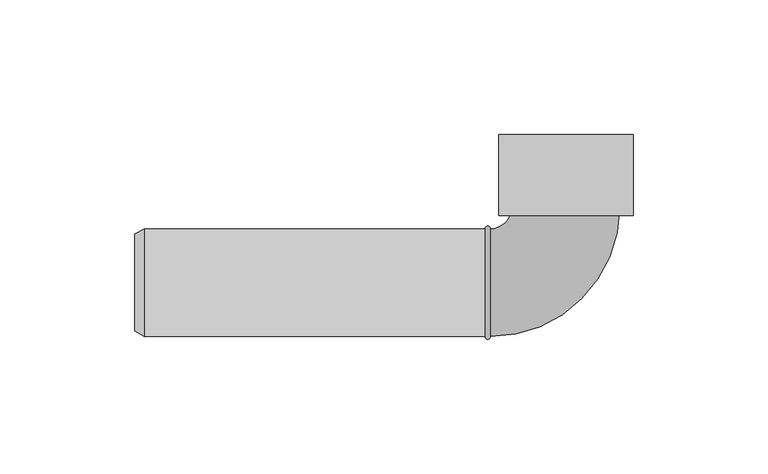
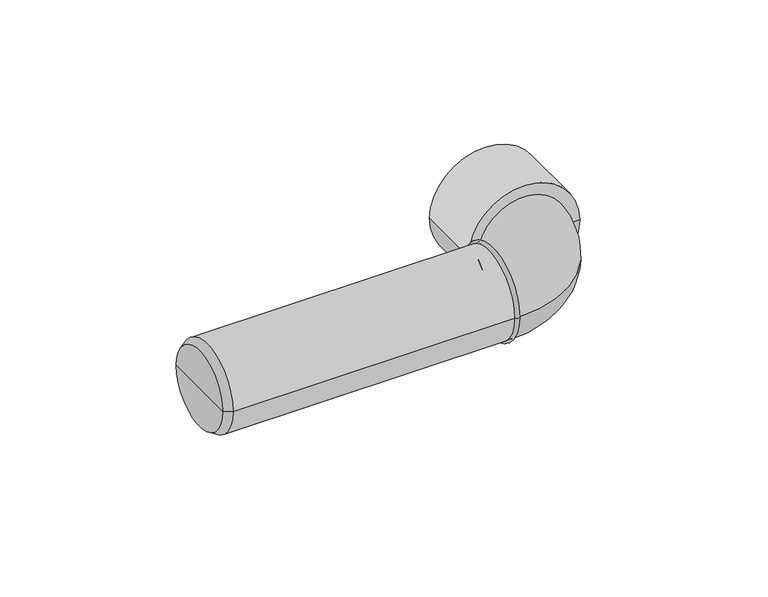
"""IFC4 building model written with IfcOpenShell, lengths in millimetres: pipe fitting geometry, NLRS_52_PIF_UN_Geberit Silent-PP aansluitbocht 90° lang_PRO_101523 : DN40-40 / d40-46 - OD."""

from ifc_helpers import new_model, si_unit, point, frame, origin, place, context, project, spatial, polyline, circle_curve, ellipse_curve, trimmed, source, transform, mapped, element, save
from ifc_brep_helpers import plane_surface, cylinder_surface, revolved_surface, advanced_brep


def pipe_fitting_0956f5d3(model_context):
    return source(origin(), model_context, "Body", "AdvancedBrep", [
        advanced_brep(
        [(20.0, 30.0, 0.0), (-20.0, 30.0, 0.0), (0.0, 30.0, 0.0), (20.0, 55.0, 0.0), (-20.0, 55.0, 0.0), (25.0, 55.0, 0.0), (-25.0, 55.0, 0.0), (25.0, 25.0, 0.0), (-25.0, 25.0, 0.0), (0.0, 25.0, 0.0)],
        [
            (0, 1, circle_curve(frame((0.0, 30.0, 0.0), z_axis=(0.0, 1.0, 0.0), x_axis=(-1.0, 0.0, 0.0)), 20.0)),
            (1, 2),
            (2, 0),
            (1, 0, circle_curve(frame((0.0, 30.0, 0.0), z_axis=(0.0, 1.0, 0.0), x_axis=(-1.0, 0.0, 0.0)), 20.0)),
            (3, 4, circle_curve(frame((0.0, 55.0, 0.0), z_axis=(0.0, 1.0, 0.0), x_axis=(-1.0, 0.0, 0.0)), 20.0)),
            (4, 1),
            (0, 3),
            (4, 3, circle_curve(frame((0.0, 55.0, 0.0), z_axis=(0.0, 1.0, 0.0), x_axis=(-1.0, 0.0, 0.0)), 20.0)),
            (5, 6, circle_curve(frame((0.0, 55.0, 0.0), z_axis=(0.0, 1.0, 0.0), x_axis=(-1.0, 0.0, 0.0)), 25.0)),
            (6, 4),
            (3, 5),
            (6, 5, circle_curve(frame((0.0, 55.0, 0.0), z_axis=(0.0, 1.0, 0.0), x_axis=(-1.0, 0.0, 0.0)), 25.0)),
            (7, 8, circle_curve(frame((0.0, 25.0, 0.0), z_axis=(0.0, 1.0, 0.0), x_axis=(-1.0, 0.0, 0.0)), 25.0)),
            (8, 6),
            (5, 7),
            (8, 7, circle_curve(frame((0.0, 25.0, 0.0), z_axis=(0.0, 1.0, 0.0), x_axis=(-1.0, 0.0, 0.0)), 25.0)),
            (9, 8),
            (7, 9),
        ],
        [
            plane_surface(frame((0.0, 30.0, 0.0), z_axis=(0.0, 1.0, 0.0), x_axis=(-1.0, 0.0, 0.0))),
            revolved_surface(polyline([(-20.0, 30.0, 0.0), (-20.0, 55.0, 0.0)]), (0.0, 5.0, 0.0), (0.0, -1.0, 0.0)),
            plane_surface(frame((0.0, 55.0, 0.0), z_axis=(0.0, 1.0, 0.0), x_axis=(-1.0, 0.0, 0.0))),
            cylinder_surface(frame((0.0, 5.0, 0.0), z_axis=(0.0, -1.0, 0.0), x_axis=(-1.0, 0.0, 0.0)), 25.0),
            plane_surface(frame((0.0, 25.0, 0.0), z_axis=(0.0, -1.0, 0.0), x_axis=(-1.0, 0.0, 0.0))),
        ],
        [
            (0, [[1, 2, 3]]),
            (0, [[4, -3, -2]]),
            (1, [[5, 6, -1, 7]]),
            (1, [[8, -7, -4, -6]]),
            (2, [[9, 10, -5, 11]]),
            (2, [[12, -11, -8, -10]]),
            (3, [[13, 14, -9, 15]]),
            (3, [[16, -15, -12, -14]]),
            (4, [[17, -13, 18]]),
            (4, [[-18, -16, -17]]),
        ],
    ),
        advanced_brep(
        [(-28.0, 20.0, 0.0), (-28.0, -20.0, 0.0), (-30.0, -20.0, 0.0), (-30.0, 20.0, 0.0)],
        [
            (0, 1, circle_curve(frame((-28.0, 0.0, 0.0), z_axis=(-1.0, 0.0, 0.0), x_axis=(0.0, -1.0000000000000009, 0.0)), 20.0)),
            (1, 2, circle_curve(frame((-29.0, -20.0, 0.0), z_axis=(0.0, 0.0, -1.0000000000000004), x_axis=(-1.0000000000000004, 0.0, 0.0)), 1.0)),
            (2, 3, circle_curve(frame((-30.0, 0.0, 0.0), z_axis=(1.0, 0.0, 0.0), x_axis=(0.0, -1.0000000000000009, 0.0)), 20.0)),
            (3, 0, circle_curve(frame((-29.0, 20.0, 0.0), z_axis=(0.0, 0.0, -1.0000000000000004), x_axis=(-1.0000000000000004, 0.0, 0.0)), 1.0)),
            (1, 0, circle_curve(frame((-28.0, 0.0, 0.0), z_axis=(-1.0, 0.0, 0.0), x_axis=(0.0, -1.0000000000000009, 0.0)), 20.0)),
            (3, 2, circle_curve(frame((-30.0, 0.0, 0.0), z_axis=(1.0, 0.0, 0.0), x_axis=(0.0, -1.0000000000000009, 0.0)), 20.0)),
            (2, 1),
            (0, 3),
        ],
        [
            revolved_surface(trimmed(ellipse_curve(frame((-29.0, -20.0, 0.0), z_axis=(0.0, 0.0, 1.0000000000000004), x_axis=(-1.0000000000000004, 0.0, 0.0)), 1.0, 1.0), [point((-30.0, -20.0, 0.0))], [point((-28.0, -20.0, 0.0))], True, "CARTESIAN"), (-18.3909381, 0.0, 0.0), (1.0000000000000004, 0.0, 0.0)),
            revolved_surface(polyline([(-28.000000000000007, -20.000000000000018, 0.0), (-30.00000000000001, -20.000000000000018, 0.0)]), (-18.3909381, 0.0, 0.0), (1.0000000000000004, 0.0, 0.0)),
        ],
        [
            (0, [[1, 2, 3, 4]]),
            (0, [[5, -4, 6, -2]]),
            (1, [[-3, 7, -1, 8]]),
            (1, [[-6, -8, -5, -7]]),
        ],
    ),
        advanced_brep(
        [(-160.0, 18.0, 0.0), (-160.0, -18.0, 0.0), (-160.0, 0.0, 0.0), (-156.5358984, 20.0, 0.0), (-156.5358984, -20.0, 0.0), (-30.0, 20.0, 0.0), (-30.0, -20.0, 0.0), (-30.0, 0.0, 0.0)],
        [
            (0, 1, circle_curve(frame((-160.0, 0.0, 0.0), z_axis=(-1.0, 0.0, 0.0), x_axis=(0.0, -1.0000000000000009, 0.0)), 18.0)),
            (1, 2),
            (2, 0),
            (1, 0, circle_curve(frame((-160.0, 0.0, 0.0), z_axis=(-1.0, 0.0, 0.0), x_axis=(0.0, -1.0000000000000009, 0.0)), 18.0)),
            (3, 4, circle_curve(frame((-156.5358984, 0.0, 0.0), z_axis=(-1.0, 0.0, 0.0), x_axis=(0.0, -1.0000000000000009, 0.0)), 20.0)),
            (4, 1),
            (0, 3),
            (4, 3, circle_curve(frame((-156.5358984, 0.0, 0.0), z_axis=(-1.0, 0.0, 0.0), x_axis=(0.0, -1.0000000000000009, 0.0)), 20.0)),
            (5, 6, circle_curve(frame((-30.0, 0.0, 0.0), z_axis=(-1.0, 0.0, 0.0), x_axis=(0.0, -1.0000000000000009, 0.0)), 20.0)),
            (6, 4),
            (3, 5),
            (6, 5, circle_curve(frame((-30.0, 0.0, 0.0), z_axis=(-1.0, 0.0, 0.0), x_axis=(0.0, -1.0000000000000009, 0.0)), 20.0)),
            (7, 6),
            (5, 7),
        ],
        [
            plane_surface(frame((-160.0, 0.0, 0.0), z_axis=(-1.0, 0.0, 0.0), x_axis=(0.0, -1.0, 0.0))),
            revolved_surface(polyline([(-160.0, -18.0, 0.0), (-156.5358984, -20.0, 0.0)]), (-175.0, 0.0, 0.0), (1.0000000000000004, 0.0, 0.0)),
            cylinder_surface(frame((-175.0, 0.0, 0.0), z_axis=(1.0000000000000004, 0.0, 0.0), x_axis=(0.0, -1.0000000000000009, 0.0)), 20.0),
            plane_surface(frame((-30.0, 0.0, 0.0), z_axis=(1.0, 0.0, 0.0), x_axis=(0.0, -1.0, 0.0))),
        ],
        [
            (0, [[1, 2, 3]]),
            (0, [[4, -3, -2]]),
            (1, [[5, 6, -1, 7]]),
            (1, [[8, -7, -4, -6]]),
            (2, [[9, 10, -5, 11]]),
            (2, [[12, -11, -8, -10]]),
            (3, [[13, -9, 14]]),
            (3, [[-14, -12, -13]]),
        ],
    ),
        advanced_brep(
        [(-30.0, -20.0, 0.0), (-30.0, 20.0, 0.0), (-28.0, -20.0, 0.0), (-28.0, 20.0, 0.0), (-20.0, 28.0, 0.0), (20.0, 28.0, 0.0), (20.0, 30.0, 0.0), (-20.0, 30.0, 0.0)],
        [
            (0, 1, circle_curve(frame((-30.0, 0.0, 0.0), z_axis=(-1.0, 0.0, 0.0), x_axis=(0.0, 1.0, 0.0)), 20.0)),
            (1, 0, circle_curve(frame((-30.0, 0.0, 0.0), z_axis=(-1.0, 0.0, 0.0), x_axis=(0.0, 1.0, 0.0)), 20.0)),
            (0, 2),
            (2, 3, circle_curve(frame((-28.0, 0.0, 0.0), z_axis=(-1.0, 0.0, 0.0), x_axis=(0.0, 1.0, 0.0)), 20.0)),
            (3, 1),
            (3, 2, circle_curve(frame((-28.0, 0.0, 0.0), z_axis=(-1.0, 0.0, 0.0), x_axis=(0.0, 1.0, 0.0)), 20.0)),
            (4, 3, circle_curve(frame((-28.0, 28.0, 0.0), z_axis=(0.0, 0.0, -1.0), x_axis=(0.0, -1.0, 0.0)), 8.0)),
            (2, 5, circle_curve(frame((-28.0, 28.0, 0.0), z_axis=(0.0, 0.0, 1.0), x_axis=(0.0, -1.0, 0.0)), 48.0)),
            (5, 4, circle_curve(frame((0.0, 28.0, 0.0), z_axis=(0.0, -1.0, 0.0), x_axis=(-1.0, 0.0, 0.0)), 20.0)),
            (4, 5, circle_curve(frame((0.0, 28.0, 0.0), z_axis=(0.0, -1.0, 0.0), x_axis=(-1.0, 0.0, 0.0)), 20.0)),
            (6, 7, circle_curve(frame((0.0, 30.0, 0.0), z_axis=(0.0, 1.0, 0.0), x_axis=(-1.0, 0.0, 0.0)), 20.0)),
            (7, 6, circle_curve(frame((0.0, 30.0, 0.0), z_axis=(0.0, 1.0, 0.0), x_axis=(-1.0, 0.0, 0.0)), 20.0)),
            (5, 6),
            (7, 4),
        ],
        [
            plane_surface(frame((-30.0, 0.0, 0.0), z_axis=(-1.0, 0.0, 0.0), x_axis=(0.0, 0.0, 1.0))),
            cylinder_surface(frame((-30.0, 0.0, 0.0), z_axis=(-1.0, 0.0, 0.0), x_axis=(0.0, 1.0, 0.0)), 20.0),
            revolved_surface(trimmed(ellipse_curve(frame((-28.0, 0.0, 0.0), z_axis=(-1.0, 0.0, 0.0), x_axis=(0.0, 1.0, 0.0)), 20.0, 20.0), [point((-28.0, -20.0, 0.0))], [point((-28.0, 20.0, 0.0))], True, "CARTESIAN"), (-28.0, 28.0, 0.0), (0.0, 0.0, 1.0)),
            revolved_surface(trimmed(ellipse_curve(frame((-28.0, 0.0, 0.0), z_axis=(-1.0, 0.0, 0.0), x_axis=(0.0, 1.0, 0.0)), 20.0, 20.0), [point((-28.0, 20.0, 0.0))], [point((-28.0, -20.0, 0.0))], True, "CARTESIAN"), (-28.0, 28.0, 0.0), (0.0, 0.0, 1.0)),
            plane_surface(frame((0.0, 30.0, 0.0), z_axis=(0.0, 1.0, 0.0), x_axis=(0.0, 0.0, 1.0))),
            cylinder_surface(frame((0.0, 28.0, 0.0), z_axis=(0.0, -1.0, 0.0), x_axis=(-1.0, 0.0, 0.0)), 20.0),
        ],
        [
            (0, [[1, 2]]),
            (1, [[-1, 3, 4, 5]]),
            (1, [[-2, -5, 6, -3]]),
            (2, [[7, -4, 8, 9]]),
            (3, [[-8, -6, -7, 10]]),
            (4, [[11, 12]]),
            (5, [[-9, 13, -12, 14]]),
            (5, [[-10, -14, -11, -13]]),
        ],
    ),
    ])


if __name__ == "__main__":
    model = new_model("IFC4")
    model_context = context("Model", 3, world=origin())
    ifc_project = project(units=[si_unit("LENGTHUNIT", "METRE", prefix="MILLI")], contexts=[model_context])
    site = spatial("IfcSite", under=ifc_project)
    building = spatial("IfcBuilding", under=site)
    placement = place(None, origin())
    pipe_fitting_shape = pipe_fitting_0956f5d3(model_context)
    element("IfcPipeFitting", 1, ObjectType="NLRS_52_PIF_UN_Geberit Silent-PP aansluitbocht 90° lang_PRO_101523 : DN40-40 / d40-46 - OD", at=placement, inside=building, context=model_context, shape_type="MappedRepresentation", body=[
        mapped(pipe_fitting_shape, transform((0.0, 0.0, 0.0), x_axis=(1.0, 0.0, 0.0), y_axis=(0.0, 1.0, 0.0), z_axis=(0.0, 0.0, 1.0))),
    ])
    save(model, "model.ifc")
